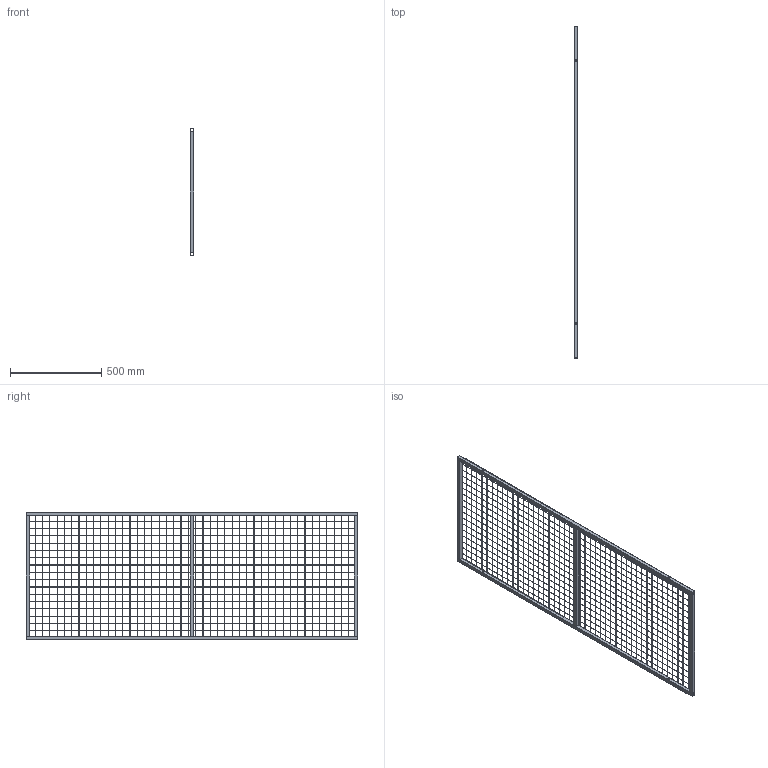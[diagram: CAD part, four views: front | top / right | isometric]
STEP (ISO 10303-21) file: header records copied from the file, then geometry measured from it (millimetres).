
FILE_DESCRIPTION (( 'STEP AP203' ), '1' );
FILE_NAME ('700.STEP', '2023-03-14T02:29:57', ( '504148165@qq.com' ), ( '' ), 'SwSTEP 2.0', 'SolidWorks 2021', '' );
FILE_SCHEMA (( 'CONFIG_CONTROL_DESIGN' ));
Length unit declared in the file: millimetre
Products named in the file (4): 1820; 700厙え; 700
Assembly tree (6 placements, depth 2):
  700
    700  x3
    1820  x2
    700厙え
Bounding box: 21 x 1820 x 700 mm (x, y, z)
Volume: 866743.4 mm3; surface area: 1044966 mm2
Topology: 65 solids, 65 shells, 426 faces, 888 edges, 592 vertices
Faces by surface type: plane 410, cylinder 16
Entity records: 10388 total; most frequent: CARTESIAN_POINT 1717, DIRECTION 1602, ORIENTED_EDGE 1584, EDGE_CURVE 792, VECTOR 776, LINE 776, VERTEX_POINT 528, AXIS2_PLACEMENT_3D 413
